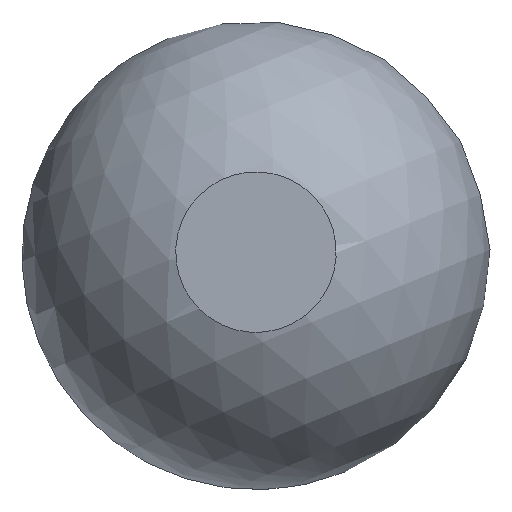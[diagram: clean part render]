
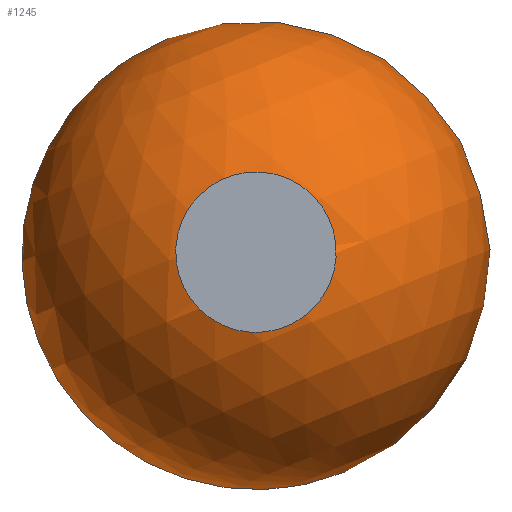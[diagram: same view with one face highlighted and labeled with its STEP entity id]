
A CAD part, top view. The second image highlights one B-rep face of the part: STEP entity #1245.
In plain terms, the highlighted spherical face has radius 175 mm.
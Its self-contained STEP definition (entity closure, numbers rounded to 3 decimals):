
#45=FACE_BOUND('',#358,.T.);
#87=SPHERICAL_SURFACE('',#1398,175.);
#254=FACE_OUTER_BOUND('',#357,.T.);
#357=EDGE_LOOP('',(#886,#887));
#358=EDGE_LOOP('',(#888));
#473=CIRCLE('',#1395,14.495);
#475=CIRCLE('',#1399,175.);
#577=VERTEX_POINT('',#2098);
#580=VERTEX_POINT('',#2106);
#581=VERTEX_POINT('',#2107);
#693=EDGE_CURVE('',#577,#577,#473,.T.);
#695=EDGE_CURVE('',#580,#581,#475,.T.);
#886=ORIENTED_EDGE('',*,*,#695,.T.);
#887=ORIENTED_EDGE('',*,*,#695,.F.);
#888=ORIENTED_EDGE('',*,*,#693,.F.);
#1245=ADVANCED_FACE('',(#254,#45),#87,.T.);
#1395=AXIS2_PLACEMENT_3D('',#2100,#1633,#1634);
#1398=AXIS2_PLACEMENT_3D('',#2105,#1639,#1640);
#1399=AXIS2_PLACEMENT_3D('',#2108,#1641,#1642);
#1633=DIRECTION('center_axis',(0.,0.,
1.));
#1634=DIRECTION('ref_axis',(0.926,0.377,0.));
#1639=DIRECTION('center_axis',(0.377,-0.926,0.));
#1640=DIRECTION('ref_axis',(0.926,0.377,0.));
#1641=DIRECTION('center_axis',(0.,0.,
-1.));
#1642=DIRECTION('ref_axis',(-0.926,-0.377,0.));
#2098=CARTESIAN_POINT('',(-5.467,13.425,349.399));
#2100=CARTESIAN_POINT('Origin',(0.,0.,
349.399));
#2105=CARTESIAN_POINT('Origin',(0.,0.,
175.));
#2106=CARTESIAN_POINT('',(66.001,-162.077,175.));
#2107=CARTESIAN_POINT('',(-66.001,162.077,175.));
#2108=CARTESIAN_POINT('Origin',(0.,0.,
175.));
